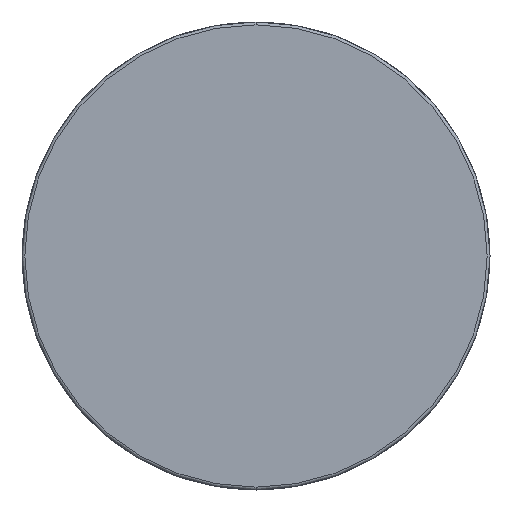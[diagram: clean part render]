
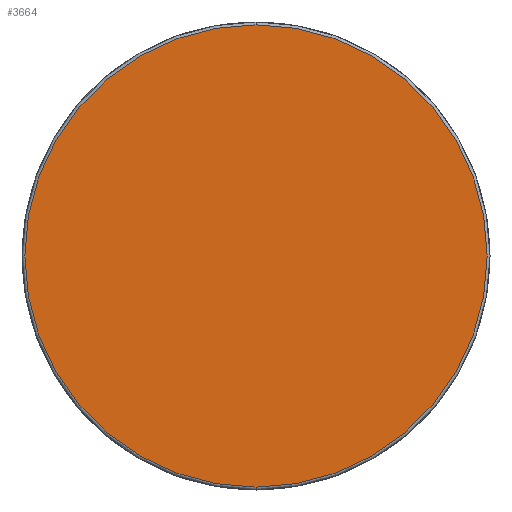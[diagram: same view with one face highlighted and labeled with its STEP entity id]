
A CAD part, front view. The second image highlights one B-rep face of the part: STEP entity #3664.
In plain terms, the highlighted planar face has unit normal (0, -1, 0) as drawn and (-1, 0, 0) by its records, which use the part's own axes.
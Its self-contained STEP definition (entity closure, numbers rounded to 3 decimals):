
#258 = CARTESIAN_POINT ( 'NONE',  ( 0., 0., 0. ) ) ;
#372 = DIRECTION ( 'NONE',  ( -1., 0., 0. ) ) ;
#708 = AXIS2_PLACEMENT_3D ( 'NONE', #258, #3188, #4652 ) ;
#764 = DIRECTION ( 'NONE',  ( 0., 0., -1. ) ) ;
#797 = AXIS2_PLACEMENT_3D ( 'NONE', #3144, #2786, #764 ) ;
#1296 = VERTEX_POINT ( 'NONE', #2500 ) ;
#1333 = AXIS2_PLACEMENT_3D ( 'NONE', #3286, #372, #4722 ) ;
#1585 = EDGE_CURVE ( 'NONE', #4487, #1296, #4480, .T. ) ;
#1641 = CIRCLE ( 'NONE', #1333, 40.5 ) ;
#2500 = CARTESIAN_POINT ( 'NONE',  ( 0., 0., 40.5 ) ) ;
#2786 = DIRECTION ( 'NONE',  ( -1., 0., 0. ) ) ;
#3144 = CARTESIAN_POINT ( 'NONE',  ( 0., 0., 0. ) ) ;
#3188 = DIRECTION ( 'NONE',  ( 1., 0., 0. ) ) ;
#3286 = CARTESIAN_POINT ( 'NONE',  ( 0., 0., 0. ) ) ;
#3451 = ORIENTED_EDGE ( 'NONE', *, *, #3715, .T. ) ;
#3548 = ORIENTED_EDGE ( 'NONE', *, *, #1585, .T. ) ;
#3555 = PLANE ( 'NONE',  #708 ) ;
#3577 = FACE_OUTER_BOUND ( 'NONE', #3770, .T. ) ;
#3664 = ADVANCED_FACE ( 'NONE', ( #3577 ), #3555, .F. ) ;
#3715 = EDGE_CURVE ( 'NONE', #1296, #4487, #1641, .T. ) ;
#3770 = EDGE_LOOP ( 'NONE', ( #3548, #3451 ) ) ;
#4033 = CARTESIAN_POINT ( 'NONE',  ( 0., 0., -40.5 ) ) ;
#4480 = CIRCLE ( 'NONE', #797, 40.5 ) ;
#4487 = VERTEX_POINT ( 'NONE', #4033 ) ;
#4652 = DIRECTION ( 'NONE',  ( 0., 0., -1. ) ) ;
#4722 = DIRECTION ( 'NONE',  ( 0., 0., -1. ) ) ;
